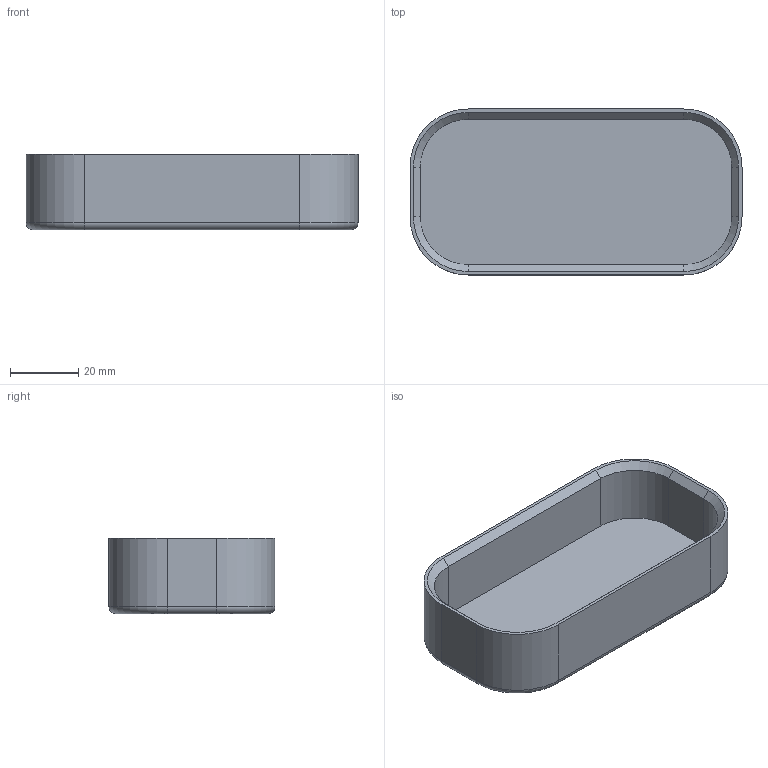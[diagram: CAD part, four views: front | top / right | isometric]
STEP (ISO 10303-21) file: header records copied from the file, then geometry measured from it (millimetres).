
FILE_DESCRIPTION(/* description */ (''),/* implementation_level */ '2;1');
FILE_NAME(/* name */ '1x2 clear internal tray.step',/* time_stamp */ '2026-06-28T18:32:17-03:00',/* author */ (''),/* organization */ (''),/* preprocessor_version */ 'ST-DEVELOPER v20.1',/* originating_system */ 'Autodesk Translation Framework v15.8.0.0',/* authorisation */ '');
FILE_SCHEMA (('AUTOMOTIVE_DESIGN { 1 0 10303 214 3 1 1 }'));
Length unit declared in the file: millimetre
Products named in the file (1): Internal tray parametric
Bounding box: 97 x 48.5 x 22 mm (x, y, z)
Volume: 27038.8 mm3; surface area: 18783.1 mm2
Topology: 1 solids, 1 shells, 35 faces, 80 edges, 48 vertices
Faces by surface type: plane 15, cylinder 12, torus 4, cone 4
Entity records: 1011 total; most frequent: DIRECTION 184, CARTESIAN_POINT 164, ORIENTED_EDGE 160, EDGE_CURVE 80, AXIS2_PLACEMENT_3D 68, LINE 48, VECTOR 48, VERTEX_POINT 48
